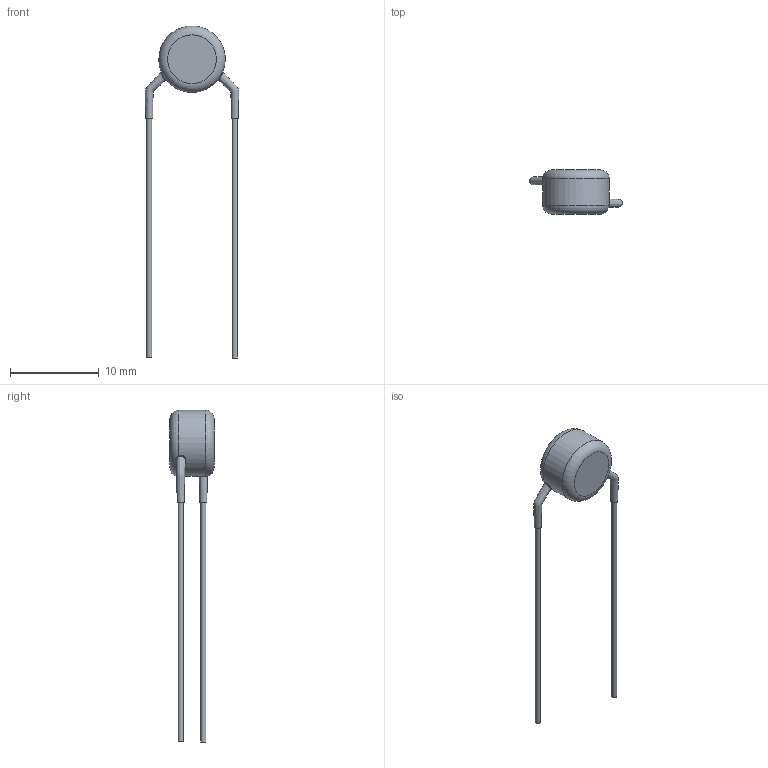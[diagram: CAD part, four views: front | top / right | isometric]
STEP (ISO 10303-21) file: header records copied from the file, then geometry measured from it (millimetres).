
FILE_DESCRIPTION(/* description */ (''),/* implementation_level */ '2;1');
FILE_NAME(/* name */ 'I:\Marketing\M6t1\3D-Models\Zchng-Werk-3\Upload for homepage\BCC neu\AY2 Straight\Step\AY2471K29Y5SS63L0.stp',/* time_stamp */ '2023-07-13T14:12:26+02:00',/* author */ ('truediger'),/* organization */ (''),/* preprocessor_version */ 'ST-DEVELOPER v18',/* originating_system */ 'Autodesk Inventor 2020',/* authorisation */ '');
FILE_SCHEMA (('AUTOMOTIVE_DESIGN { 1 0 10303 214 3 1 1 }'));
Length unit declared in the file: millimetre
Products named in the file (1): Bauteil2
Bounding box: 10.55 x 5 x 37.5 mm (x, y, z)
Volume: 233.7 mm3; surface area: 317 mm2
Topology: 1 solids, 1 shells, 19 faces, 43 edges, 28 vertices
Faces by surface type: bspline 8, plane 6, cylinder 3, torus 2
Full cylindrical faces by diameter (mm): 0.6 x2, 7.5 x1
Entity records: 1518 total; most frequent: CARTESIAN_POINT 1057, ORIENTED_EDGE 86, DIRECTION 75, EDGE_CURVE 43, AXIS2_PLACEMENT_3D 36, VERTEX_POINT 28, CIRCLE 24, EDGE_LOOP 21
